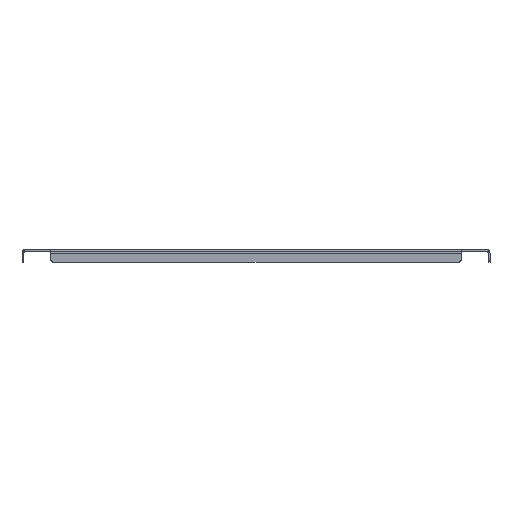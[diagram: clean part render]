
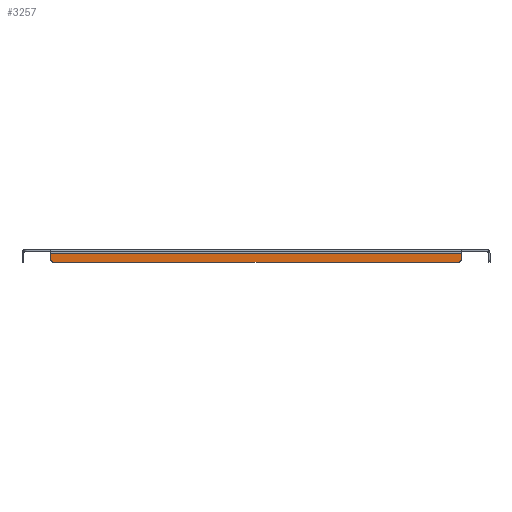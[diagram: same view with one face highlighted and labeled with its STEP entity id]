
A CAD part, front view. The second image highlights one B-rep face of the part: STEP entity #3257.
In plain terms, the highlighted planar face has unit normal (0, -1, 0).
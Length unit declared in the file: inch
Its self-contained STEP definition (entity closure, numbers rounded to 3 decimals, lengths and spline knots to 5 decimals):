
#908=DIRECTION('',(-1.,0.,0.));
#909=VECTOR('',#908,28.9375);
#910=CARTESIAN_POINT('',(14.46875,-28.46875,-0.237));
#911=LINE('',#910,#909);
#977=CARTESIAN_POINT('',(-14.21875,-28.46875,-0.625));
#978=DIRECTION('',(0.,-1.,0.));
#979=DIRECTION('',(-1.,0.,0.));
#980=AXIS2_PLACEMENT_3D('',#977,#978,#979);
#982=DIRECTION('',(0.,0.,-1.));
#983=VECTOR('',#982,0.388);
#984=CARTESIAN_POINT('',(-14.46875,-28.46875,-0.237));
#985=LINE('',#984,#983);
#986=DIRECTION('',(0.,0.,1.));
#987=VECTOR('',#986,0.388);
#988=CARTESIAN_POINT('',(14.46875,-28.46875,-0.625));
#989=LINE('',#988,#987);
#990=CARTESIAN_POINT('',(14.21875,-28.46875,-0.625));
#991=DIRECTION('',(0.,-1.,0.));
#992=DIRECTION('',(0.,0.,-1.));
#993=AXIS2_PLACEMENT_3D('',#990,#991,#992);
#995=DIRECTION('',(1.,0.,0.));
#996=VECTOR('',#995,28.4375);
#997=CARTESIAN_POINT('',(-14.21875,-28.46875,-0.875));
#998=LINE('',#997,#996);
#1241=CARTESIAN_POINT('',(14.46875,-28.46875,-0.237));
#1242=CARTESIAN_POINT('',(-14.46875,-28.46875,-0.237));
#1243=VERTEX_POINT('',#1241);
#1244=VERTEX_POINT('',#1242);
#1561=CARTESIAN_POINT('',(-14.46875,-28.46875,-0.625));
#1562=CARTESIAN_POINT('',(-14.21875,-28.46875,-0.875));
#1563=VERTEX_POINT('',#1561);
#1564=VERTEX_POINT('',#1562);
#1569=CARTESIAN_POINT('',(14.21875,-28.46875,-0.875));
#1570=CARTESIAN_POINT('',(14.46875,-28.46875,-0.625));
#1571=VERTEX_POINT('',#1569);
#1572=VERTEX_POINT('',#1570);
#3241=CARTESIAN_POINT('',(-16.34375,-28.46875,0.));
#3242=DIRECTION('',(0.,-1.,0.));
#3243=DIRECTION('',(-1.,0.,0.));
#3244=AXIS2_PLACEMENT_3D('',#3241,#3242,#3243);
#3245=PLANE('',#3244);
#3246=ORIENTED_EDGE('',*,*,#3231,.F.);
#3247=ORIENTED_EDGE('',*,*,#3221,.F.);
#3248=ORIENTED_EDGE('',*,*,#3035,.F.);
#3250=ORIENTED_EDGE('',*,*,#3249,.F.);
#3252=ORIENTED_EDGE('',*,*,#3251,.F.);
#3254=ORIENTED_EDGE('',*,*,#3253,.F.);
#3255=EDGE_LOOP('',(#3246,#3247,#3248,#3250,#3252,#3254));
#3256=FACE_OUTER_BOUND('',#3255,.F.);
#3257=ADVANCED_FACE('',(#3256),#3245,.T.);
#981=CIRCLE('',#980,0.25);
#994=CIRCLE('',#993,0.25);
#3035=EDGE_CURVE('',#1243,#1244,#911,.T.);
#3221=EDGE_CURVE('',#1244,#1563,#985,.T.);
#3231=EDGE_CURVE('',#1563,#1564,#981,.T.);
#3249=EDGE_CURVE('',#1572,#1243,#989,.T.);
#3251=EDGE_CURVE('',#1571,#1572,#994,.T.);
#3253=EDGE_CURVE('',#1564,#1571,#998,.T.);
